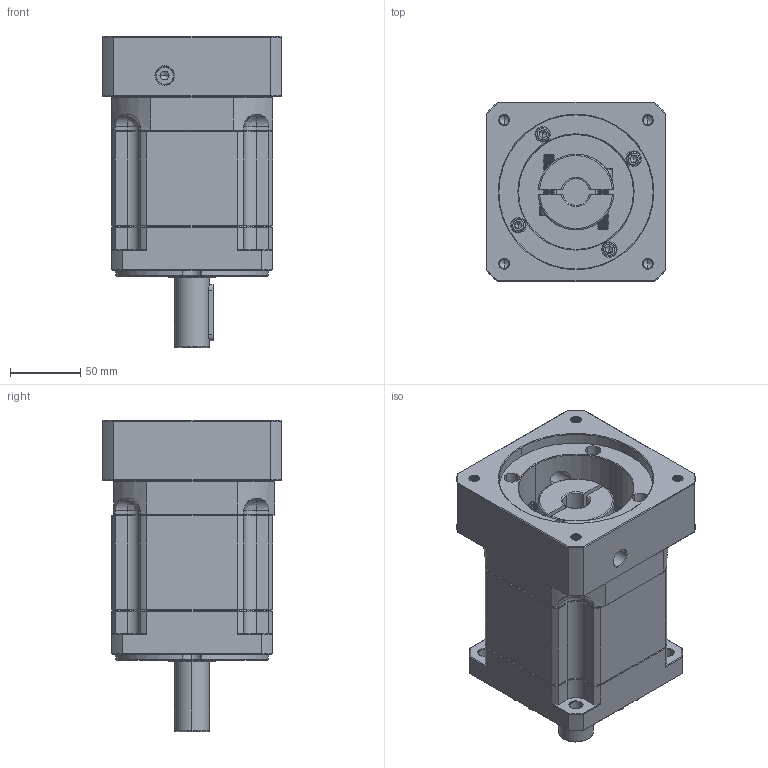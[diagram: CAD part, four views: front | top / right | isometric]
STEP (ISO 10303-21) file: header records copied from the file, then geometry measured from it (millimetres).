
FILE_DESCRIPTION (( 'STEP AP214' ), '1' );
FILE_NAME ('ZB115A-D25-L2-P2-19-110-145-M8.step', '2023-08-26T06:22:43', ( '' ), ( '' ), 'SwSTEP 2.0', 'SolidWorks 2016', '' );
FILE_SCHEMA (( 'AUTOMOTIVE_DESIGN' ));
Length unit declared in the file: millimetre
Products named in the file (1): ZB115A-D25-L2-P2-19-110-145-M8
Bounding box: 128 x 128 x 222 mm (x, y, z)
Volume: 1943219.9 mm3; surface area: 190255.4 mm2
Topology: 6 solids, 6 shells, 2391 faces, 6281 edges, 3989 vertices
Faces by surface type: plane 1143, cylinder 439, bspline 423, cone 366, torus 20
Entity records: 128991 total; most frequent: CARTESIAN_POINT 47329, ORIENTED_EDGE 12494, DIRECTION 9884, EDGE_CURVE 6247, VECTOR 3994, LINE 3994, VERTEX_POINT 3989, AXIS2_PLACEMENT_3D 2945
